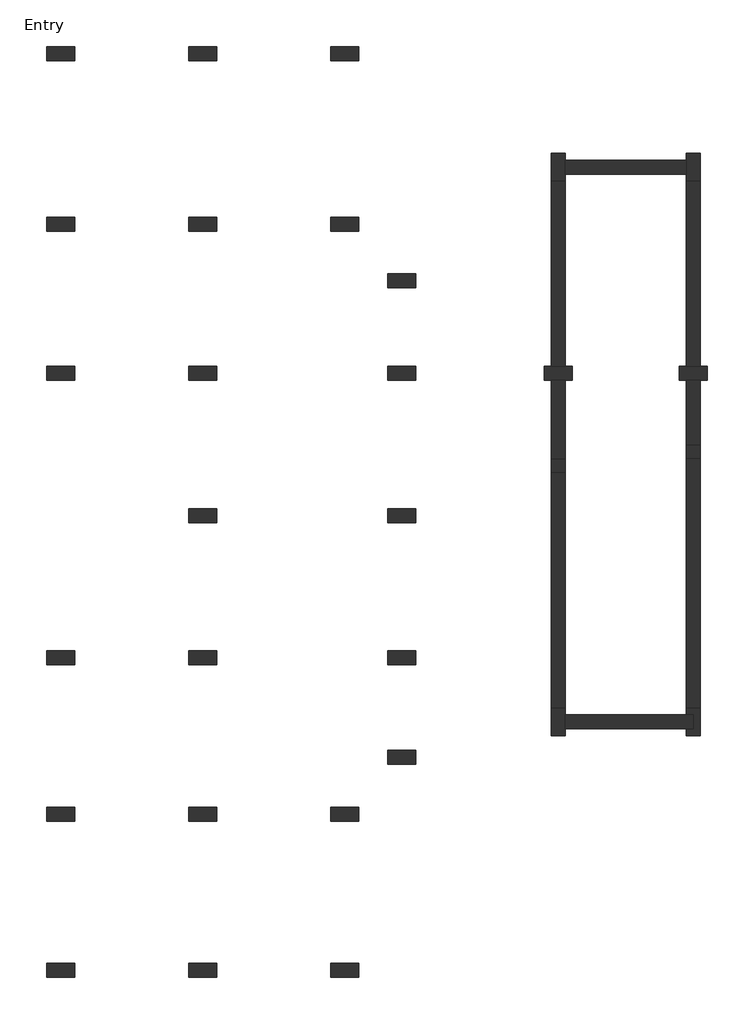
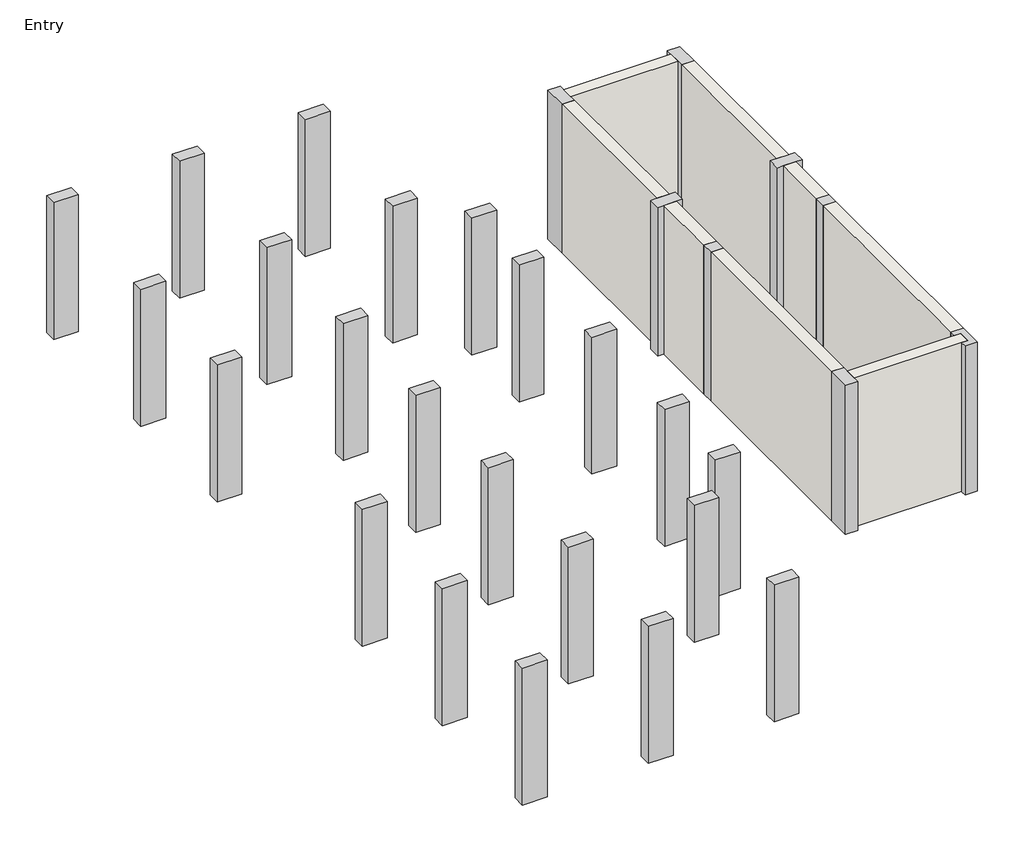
# One storey: 30 columns, 8 walls.
"""IFC4 building model written with IfcOpenShell, lengths in millimetres."""

import ifcopenshell
import ifcopenshell.guid

model = None  # the IFC model being written
_history = None  # IfcOwnerHistory: only IFC2X3 demands one
_inside = {}  # id of a spatial element -> (the spatial element, [elements in it])
_under = {}  # id of a project, library or spatial element -> (it, [spatial elements below it])
_declared = {}  # id of a project -> (the project, [libraries it declares])
_typed = {}  # id of a type object -> (the type object, [elements of that type])
_made_of = {}  # id of a material, layer set ... -> (it, [elements and type objects made of it])


def new_model(schema):
    """Start an empty IFC model of exactly this schema.

    Asked for "IFC4X3", IfcOpenShell would pick the latest addendum, in which some entities
    have other attributes; the version numbers below select the first issue.
    IFC2X3 requires an IfcOwnerHistory on every rooted entity: one is made here for all.
    """
    global model, _history
    if schema == "IFC4X3":
        model = ifcopenshell.file(schema_version=(4, 3, 0, 0))
    else:
        model = ifcopenshell.file(schema=schema)
    _inside.clear()
    _under.clear()
    _declared.clear()
    _typed.clear()
    _made_of.clear()
    _history = None
    if model.schema == "IFC2X3":
        org = make("IfcOrganization", Name="unknown")
        user = make(
            "IfcPersonAndOrganization",
            ThePerson=make("IfcPerson", FamilyName="unknown"),
            TheOrganization=org,
        )
        app = make(
            "IfcApplication",
            ApplicationDeveloper=org,
            Version="unknown",
            ApplicationFullName="unknown",
            ApplicationIdentifier="unknown",
        )
        _history = make(
            "IfcOwnerHistory",
            OwningUser=user,
            OwningApplication=app,
            ChangeAction="ADDED",
            CreationDate=0,
        )
    return model


def make(cls, **values):
    """One entity of the class cls with the attributes given. An attribute that is None is left unset."""
    return model.create_entity(
        cls, **{name: value for name, value in values.items() if value is not None}
    )


def rooted(cls, **values):
    """An entity with a GlobalId (a new one), such as an element, a storey or a relation."""
    return make(cls, GlobalId=ifcopenshell.guid.new(), OwnerHistory=_history, **values)


def si_unit(unit_type, name, prefix=None):
    """IfcSIUnit, for example si_unit("LENGTHUNIT", "METRE", prefix="MILLI")."""
    return make("IfcSIUnit", UnitType=unit_type, Prefix=prefix, Name=name)


def assignment(units):
    """IfcUnitAssignment: the units of a project."""
    return None if units is None else make("IfcUnitAssignment", Units=units)


def point(xyz):
    """IfcCartesianPoint."""
    return None if xyz is None else make("IfcCartesianPoint", Coordinates=xyz)


def direction(xyz):
    """IfcDirection."""
    return None if xyz is None else make("IfcDirection", DirectionRatios=xyz)


def frame(location, z_axis=None, x_axis=None):
    """IfcAxis2Placement3D, a coordinate frame: its origin and axes. An axis left out is left unset."""
    return make(
        "IfcAxis2Placement3D",
        Location=point(location),
        Axis=direction(z_axis),
        RefDirection=direction(x_axis),
    )


def origin():
    """The frame at (0, 0, 0) with its axes left unset."""
    return frame((0.0, 0.0, 0.0))


def origin_with_axes():
    """The frame at (0, 0, 0) with the z axis (0, 0, 1) and the x axis (1, 0, 0) written out."""
    return frame((0.0, 0.0, 0.0), z_axis=(0.0, 0.0, 1.0), x_axis=(1.0, 0.0, 0.0))


def place(relative_to, where):
    """IfcLocalPlacement: puts the frame where relative to a parent placement (None: the world)."""
    return make(
        "IfcLocalPlacement", PlacementRelTo=relative_to, RelativePlacement=where
    )


def context(
    kind, dimensions, precision=None, world=None, true_north=None, identifier=None
):
    """IfcGeometricRepresentationContext, for example the 3D "Model" context."""
    return make(
        "IfcGeometricRepresentationContext",
        ContextIdentifier=identifier,
        ContextType=kind,
        CoordinateSpaceDimension=dimensions,
        Precision=precision,
        WorldCoordinateSystem=world,
        TrueNorth=true_north,
    )


def project(units=None, contexts=None):
    """IfcProject with its units and contexts."""
    return rooted(
        "IfcProject",
        Name="project",
        RepresentationContexts=contexts,
        UnitsInContext=assignment(units),
    )


def spatial(cls, under=None, at=None, **own):
    """A site, building, storey or space (cls), placed at a placement, below another one or the project."""
    s = rooted(cls, ObjectPlacement=at, **own)
    if under is not None:
        _under.setdefault(under.id(), (under, []))[1].append(s)
    return s


def polyline(points):
    """IfcPolyline through the points."""
    return make("IfcPolyline", Points=[point(p) for p in points])


def outline(outer, holes=None, kind="AREA"):
    """IfcArbitraryClosedProfileDef: a profile drawn as a closed curve; with holes, ...WithVoids."""
    if holes is None:
        return make("IfcArbitraryClosedProfileDef", ProfileType=kind, OuterCurve=outer)
    return make(
        "IfcArbitraryProfileDefWithVoids",
        ProfileType=kind,
        OuterCurve=outer,
        InnerCurves=holes,
    )


def extrude(swept, where, along, depth):
    """IfcExtrudedAreaSolid: the profile swept, set in the frame where, extruded along a direction by depth."""
    return make(
        "IfcExtrudedAreaSolid",
        SweptArea=swept,
        Position=where,
        ExtrudedDirection=direction(along),
        Depth=depth,
    )


def faces_of(points, faces, orient=None, outer=None):
    """IfcFace entities. A face is a list of loops; a loop is a list of indices into points, from 0.

    orient and outer hold one flag for each loop. By default every Orientation is true, the
    first loop of a face is its IfcFaceOuterBound and the others are IfcFaceBound.
    """
    made = []
    for i, loops in enumerate(faces):
        bounds = []
        for j, loop in enumerate(loops):
            is_outer = j == 0 if outer is None else outer[i][j]
            bounds.append(
                make(
                    "IfcFaceOuterBound" if is_outer else "IfcFaceBound",
                    Bound=make("IfcPolyLoop", Polygon=[points[k] for k in loop]),
                    Orientation=True if orient is None else orient[i][j],
                )
            )
        made.append(make("IfcFace", Bounds=bounds))
    return made


def faceted_brep(points, faces, orient=None, outer=None, voids=None):
    """IfcFacetedBrep: a solid bounded by flat faces; with voids (closed shells), ...WithVoids."""
    shared = [point(p) for p in points]
    hull = make("IfcClosedShell", CfsFaces=faces_of(shared, faces, orient, outer))
    if voids is None:
        return make("IfcFacetedBrep", Outer=hull)
    return make(
        "IfcFacetedBrepWithVoids",
        Outer=hull,
        Voids=[
            make(cls, CfsFaces=faces_of(shared, fs, o, b)) for cls, fs, o, b in voids
        ],
    )


def shape(context_of_items, identifier, shape_type, items):
    """IfcShapeRepresentation: the items that make up one representation, for example the "Body"."""
    return make(
        "IfcShapeRepresentation",
        ContextOfItems=context_of_items,
        RepresentationIdentifier=identifier,
        RepresentationType=shape_type,
        Items=items,
    )


def source(mapping_origin, context_of_items, identifier, shape_type, items):
    """IfcRepresentationMap: a shape defined once, which mapped items show again and again."""
    return make(
        "IfcRepresentationMap",
        MappingOrigin=mapping_origin,
        MappedRepresentation=shape(context_of_items, identifier, shape_type, items),
    )


def transform(
    local_origin,
    x_axis=None,
    y_axis=None,
    z_axis=None,
    scale=None,
    scale2=None,
    scale3=None,
    uniform=True,
):
    """IfcCartesianTransformationOperator3D, or its non-uniform kind. x_axis, y_axis, z_axis: its Axis1, 2, 3."""
    if uniform:
        return make(
            "IfcCartesianTransformationOperator3D",
            Axis1=direction(x_axis),
            Axis2=direction(y_axis),
            LocalOrigin=point(local_origin),
            Scale=scale,
            Axis3=direction(z_axis),
        )
    return make(
        "IfcCartesianTransformationOperator3DnonUniform",
        Axis1=direction(x_axis),
        Axis2=direction(y_axis),
        LocalOrigin=point(local_origin),
        Scale=scale,
        Axis3=direction(z_axis),
        Scale2=scale2,
        Scale3=scale3,
    )


def mapped(mapping_source, mapping_target):
    """IfcMappedItem: shows the shape of a source again, moved by a transform."""
    return make(
        "IfcMappedItem", MappingSource=mapping_source, MappingTarget=mapping_target
    )


def made_of(thing, what):
    """Note that an element or type object is made of a material, layer set ...; save() writes the relation."""
    if what is not None:
        _made_of.setdefault(what.id(), (what, []))[1].append(thing)
    return thing


def element(
    cls,
    number,
    at=None,
    inside=None,
    cuts=None,
    type_object=None,
    material=None,
    context=None,
    identifier="Body",
    shape_type=None,
    held_by="IfcProductDefinitionShape",
    body=None,
    shapes=None,
    **own,
):
    """One element of the class cls, such as IfcWall. Its Tag is "e" and its number.

    at: its placement. inside: the storey or other place that contains it. cuts: it is an
    opening in that element (IfcRelVoidsElement). A single representation is given by context,
    identifier, shape_type and body (its items); several are given by shapes. held_by: the class
    of the entity that holds the representations. save() writes the other relations.
    """
    e = rooted(cls, Tag="e%d" % number, ObjectPlacement=at, **own)
    if body is not None:
        shapes = [shape(context, identifier, shape_type, body)]
    if shapes is not None:
        e.Representation = make(held_by, Representations=shapes)
    if inside is not None:
        _inside.setdefault(inside.id(), (inside, []))[1].append(e)
    if cuts is not None:
        rooted(
            "IfcRelVoidsElement", RelatingBuildingElement=cuts, RelatedOpeningElement=e
        )
    if type_object is not None:
        _typed.setdefault(type_object.id(), (type_object, []))[1].append(e)
    return made_of(e, material)


def aggregate(whole, parts):
    """IfcRelAggregates: a whole, such as a stair, and the parts it consists of."""
    return rooted("IfcRelAggregates", RelatingObject=whole, RelatedObjects=parts)


def save(model, path):
    """Write the relations noted so far, then the file.

    IfcRelAggregates (storeys below a building ...), IfcRelContainedInSpatialStructure (elements
    in a storey), IfcRelDefinesByType, IfcRelAssociatesMaterial and IfcRelDeclares: one each for
    every whole, place, type object, material and project.
    """
    for whole, parts in _under.values():
        aggregate(whole, parts)
    for where, things in _inside.values():
        rooted(
            "IfcRelContainedInSpatialStructure",
            RelatedElements=things,
            RelatingStructure=where,
        )
    for kind, things in _typed.values():
        rooted("IfcRelDefinesByType", RelatedObjects=things, RelatingType=kind)
    for what, things in _made_of.values():
        rooted("IfcRelAssociatesMaterial", RelatedObjects=things, RelatingMaterial=what)
    for by, libraries in _declared.values():
        rooted("IfcRelDeclares", RelatingContext=by, RelatedDefinitions=libraries)
    model.write(path)


def m_concrete_rectangular_column_300_x_600mm_f1ddfff3(model_context):
    return source(origin(), model_context, "Body", "SweptSolid", [
        extrude(outline(polyline([(150.0, 300.0), (150.0, -300.0), (-150.0, -300.0), (-150.0, 300.0), (150.0, 300.0)])), origin_with_axes(), (0.0, 0.0, 1.0), 3505.2),
    ])


model = new_model("IFC4")

# Units and contexts
model_context = context("Model", 3, world=origin())
ifc_project = project(units=[si_unit("LENGTHUNIT", "METRE", prefix="MILLI")], contexts=[model_context])

# Site, building, storey
site = spatial("IfcSite", under=ifc_project)
building = spatial("IfcBuilding", under=site)
storey = spatial("IfcBuildingStorey", under=building, Name="Entry", Elevation=0.0)

# Columns
placement = place(None, origin())
element("IfcColumn", 1, ObjectType="M_Concrete-Rectangular-Column : 300 x 600mm", at=placement, inside=storey, context=model_context, shape_type="Brep", body=[
    faceted_brep([(-2463.3472303, 8019.016665, 0.0), (-2313.3472303, 8019.016665, 0.0), (-2013.3472303, 8019.016665, 0.0), (-1863.3472303, 8019.016665, 0.0), (-1863.3472303, 7719.016665, 0.0), (-2013.3472303, 7719.016665, 0.0), (-2313.3472303, 7719.016665, 0.0), (-2463.3472303, 7719.016665, 0.0), (-2463.3472303, 8019.016665, 3810.0), (-2313.3472303, 8019.016665, 3810.0), (-2013.3472303, 8019.016665, 3810.0), (-1863.3472303, 8019.016665, 3810.0), (-1863.3472303, 7719.016665, 3810.0), (-2013.3472303, 7719.016665, 3810.0), (-2313.3472303, 7719.016665, 3810.0), (-2463.3472303, 7719.016665, 3810.0)], [[[0, 1, 2, 3, 4, 5, 6, 7]], [[8, 9, 10, 11, 3, 2, 1, 0]], [[11, 12, 4, 3]], [[12, 13, 14, 15, 7, 6, 5, 4]], [[15, 8, 0, 7]], [[8, 15, 14, 13, 12, 11, 10, 9]]]),
])
element("IfcColumn", 2, ObjectType="M_Concrete-Rectangular-Column : 300 x 600mm", at=placement, inside=storey, context=model_context, shape_type="Brep", body=[
    faceted_brep([(432.6527697, 8019.016665, 0.0), (582.6527697, 8019.016665, 0.0), (882.6527697, 8019.016665, 0.0), (1032.6527697, 8019.016665, 0.0), (1032.6527697, 7719.016665, 0.0), (882.6527697, 7719.016665, 0.0), (582.6527697, 7719.016665, 0.0), (432.6527697, 7719.016665, 0.0), (432.6527697, 8019.016665, 3810.0), (582.6527697, 8019.016665, 3810.0), (882.6527697, 8019.016665, 3810.0), (1032.6527697, 8019.016665, 3810.0), (1032.6527697, 7719.016665, 3810.0), (882.6527697, 7719.016665, 3810.0), (582.6527697, 7719.016665, 3810.0), (432.6527697, 7719.016665, 3810.0)], [[[0, 1, 2, 3, 4, 5, 6, 7]], [[8, 9, 10, 11, 3, 2, 1, 0]], [[11, 12, 4, 3]], [[12, 13, 14, 15, 7, 6, 5, 4]], [[15, 8, 0, 7]], [[8, 15, 14, 13, 12, 11, 10, 9]]]),
])
element("IfcColumn", 3, ObjectType="M_Concrete-Rectangular-Column : 300 x 600mm", at=placement, inside=storey, context=model_context, shape_type="Brep", body=[
    faceted_brep([(-2313.3472303, 11988.016665, 0.0), (-2313.3472303, 12588.016665, 0.0), (-2013.3472303, 12588.016665, 0.0), (-2013.3472303, 12438.016665, 0.0), (-2013.3472303, 12138.016665, 0.0), (-2013.3472303, 11988.016665, 0.0), (-2313.3472303, 11988.016665, 3810.0), (-2313.3472303, 12588.016665, 3810.0), (-2013.3472303, 12588.016665, 3810.0), (-2013.3472303, 12438.016665, 3810.0), (-2013.3472303, 12138.016665, 3810.0), (-2013.3472303, 11988.016665, 3810.0)], [[[0, 1, 2, 3, 4, 5]], [[6, 7, 1, 0]], [[7, 8, 2, 1]], [[8, 9, 10, 11, 5, 4, 3, 2]], [[11, 6, 0, 5]], [[6, 11, 10, 9, 8, 7]]]),
])
element("IfcColumn", 4, ObjectType="M_Concrete-Rectangular-Column : 300 x 600mm", at=placement, inside=storey, context=model_context, shape_type="Brep", body=[
    faceted_brep([(582.6527697, 11988.016665, 0.0), (582.6527697, 12138.016665, 0.0), (582.6527697, 12438.016665, 0.0), (582.6527697, 12588.016665, 0.0), (882.6527697, 12588.016665, 0.0), (882.6527697, 11988.016665, 0.0), (582.6527697, 11988.016665, 3810.0), (582.6527697, 12138.016665, 3810.0), (582.6527697, 12438.016665, 3810.0), (582.6527697, 12588.016665, 3810.0), (882.6527697, 12588.016665, 3810.0), (882.6527697, 11988.016665, 3810.0)], [[[0, 1, 2, 3, 4, 5]], [[6, 7, 8, 9, 3, 2, 1, 0]], [[9, 10, 4, 3]], [[10, 11, 5, 4]], [[11, 6, 0, 5]], [[6, 11, 10, 9, 8, 7]]]),
])
element("IfcColumn", 5, ObjectType="M_Concrete-Rectangular-Column : 300 x 600mm", at=placement, inside=storey, context=model_context, shape_type="Brep", body=[
    faceted_brep([(-2313.3472303, 101.016665, 0.0), (-2313.3472303, 701.016665, 0.0), (-2013.3472303, 701.016665, 0.0), (-2013.3472303, 551.016665, 0.0), (-2013.3472303, 251.016665, 0.0), (-2013.3472303, 101.016665, 0.0), (-2313.3472303, 101.016665, 3810.0), (-2313.3472303, 701.016665, 3810.0), (-2013.3472303, 701.016665, 3810.0), (-2013.3472303, 551.016665, 3810.0), (-2013.3472303, 251.016665, 3810.0), (-2013.3472303, 101.016665, 3810.0)], [[[0, 1, 2, 3, 4, 5]], [[6, 7, 1, 0]], [[7, 8, 2, 1]], [[8, 9, 10, 11, 5, 4, 3, 2]], [[11, 6, 0, 5]], [[6, 11, 10, 9, 8, 7]]]),
])
element("IfcColumn", 6, ObjectType="M_Concrete-Rectangular-Column : 300 x 600mm", at=placement, inside=storey, context=model_context, shape_type="SweptSolid", body=[
    extrude(outline(polyline([(582.6527697, 701.016665), (882.6527697, 701.016665), (882.6527697, 101.016665), (582.6527697, 101.016665), (582.6527697, 251.016665), (732.6527697, 251.016665), (732.6527697, 551.016665), (582.6527697, 551.016665), (582.6527697, 701.016665)])), origin_with_axes(), (0.0, 0.0, 1.0), 3810.0),
])
element("IfcColumn", 7, ObjectType="M_Concrete-Rectangular-Column : 300 x 600mm", at=placement, inside=storey, context=model_context, shape_type="SweptSolid", body=[
    extrude(outline(polyline([(-2013.3472303, 5740.016665), (-2313.3472303, 5740.016665), (-2313.3472303, 6040.016665), (-2013.3472303, 6040.016665), (-2013.3472303, 5740.016665)])), origin_with_axes(), (0.0, 0.0, 1.0), 3810.0),
])
element("IfcColumn", 8, ObjectType="M_Concrete-Rectangular-Column : 300 x 600mm", at=placement, inside=storey, context=model_context, shape_type="SweptSolid", body=[
    extrude(outline(polyline([(582.6527697, 6340.016665), (882.6527697, 6340.016665), (882.6527697, 6040.016665), (582.6527697, 6040.016665), (582.6527697, 6340.016665)])), origin_with_axes(), (0.0, 0.0, 1.0), 3810.0),
])
m_concrete_rectangular_column_300_x_600mm_shape = m_concrete_rectangular_column_300_x_600mm_f1ddfff3(model_context)
element("IfcColumn", 9, ObjectType="M_Concrete-Rectangular-Column : 300 x 600mm", at=placement, inside=storey, context=model_context, shape_type="MappedRepresentation", body=[
    mapped(m_concrete_rectangular_column_300_x_600mm_shape, transform((-12831.3472303, 14726.016665, 0.0), x_axis=(0.0, 1.0, 0.0), y_axis=(-1.0, 0.0, 0.0), z_axis=(0.0, 0.0, 1.0))),
])
element("IfcColumn", 10, ObjectType="M_Concrete-Rectangular-Column : 300 x 600mm", at=placement, inside=storey, context=model_context, shape_type="MappedRepresentation", body=[
    mapped(m_concrete_rectangular_column_300_x_600mm_shape, transform((-9783.3472303, 14726.016665, 0.0), x_axis=(0.0, 1.0, 0.0), y_axis=(-1.0, 0.0, 0.0), z_axis=(0.0, 0.0, 1.0))),
])
element("IfcColumn", 11, ObjectType="M_Concrete-Rectangular-Column : 300 x 600mm", at=placement, inside=storey, context=model_context, shape_type="MappedRepresentation", body=[
    mapped(m_concrete_rectangular_column_300_x_600mm_shape, transform((-6735.3472303, 14726.016665, 0.0), x_axis=(0.0, 1.0, 0.0), y_axis=(-1.0, 0.0, 0.0), z_axis=(0.0, 0.0, 1.0))),
])
element("IfcColumn", 12, ObjectType="M_Concrete-Rectangular-Column : 300 x 600mm", at=placement, inside=storey, context=model_context, shape_type="MappedRepresentation", body=[
    mapped(m_concrete_rectangular_column_300_x_600mm_shape, transform((-12831.3472303, 11069.016665, 0.0), x_axis=(0.0, 1.0, 0.0), y_axis=(-1.0, 0.0, 0.0), z_axis=(0.0, 0.0, 1.0))),
])
element("IfcColumn", 13, ObjectType="M_Concrete-Rectangular-Column : 300 x 600mm", at=placement, inside=storey, context=model_context, shape_type="MappedRepresentation", body=[
    mapped(m_concrete_rectangular_column_300_x_600mm_shape, transform((-9783.3472303, 11069.016665, 0.0), x_axis=(0.0, 1.0000000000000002, 0.0), y_axis=(-1.0000000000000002, 0.0, 0.0), z_axis=(0.0, 0.0, 1.0))),
])
element("IfcColumn", 14, ObjectType="M_Concrete-Rectangular-Column : 300 x 600mm", at=placement, inside=storey, context=model_context, shape_type="MappedRepresentation", body=[
    mapped(m_concrete_rectangular_column_300_x_600mm_shape, transform((-6735.3472303, 11069.016665, 0.0), x_axis=(0.0, 1.0000000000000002, 0.0), y_axis=(-1.0000000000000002, 0.0, 0.0), z_axis=(0.0, 0.0, 1.0))),
])
element("IfcColumn", 15, ObjectType="M_Concrete-Rectangular-Column : 300 x 600mm", at=placement, inside=storey, context=model_context, shape_type="MappedRepresentation", body=[
    mapped(m_concrete_rectangular_column_300_x_600mm_shape, transform((-5516.3472303, 9850.016665, 0.0), x_axis=(0.0, 1.0000000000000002, 0.0), y_axis=(-1.0000000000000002, 0.0, 0.0), z_axis=(0.0, 0.0, 1.0))),
])
element("IfcColumn", 16, ObjectType="M_Concrete-Rectangular-Column : 300 x 600mm", at=placement, inside=storey, context=model_context, shape_type="MappedRepresentation", body=[
    mapped(m_concrete_rectangular_column_300_x_600mm_shape, transform((-12831.3472303, 7869.016665, 0.0), x_axis=(0.0, 1.0000000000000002, 0.0), y_axis=(-1.0000000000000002, 0.0, 0.0), z_axis=(0.0, 0.0, 1.0))),
])
element("IfcColumn", 17, ObjectType="M_Concrete-Rectangular-Column : 300 x 600mm", at=placement, inside=storey, context=model_context, shape_type="MappedRepresentation", body=[
    mapped(m_concrete_rectangular_column_300_x_600mm_shape, transform((-9783.3472303, 7869.016665, 0.0), x_axis=(0.0, 1.0000000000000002, 0.0), y_axis=(-1.0000000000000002, 0.0, 0.0), z_axis=(0.0, 0.0, 1.0))),
])
element("IfcColumn", 18, ObjectType="M_Concrete-Rectangular-Column : 300 x 600mm", at=placement, inside=storey, context=model_context, shape_type="MappedRepresentation", body=[
    mapped(m_concrete_rectangular_column_300_x_600mm_shape, transform((-5516.3472303, 7869.016665, 0.0), x_axis=(0.0, 1.0000000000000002, 0.0), y_axis=(-1.0000000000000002, 0.0, 0.0), z_axis=(0.0, 0.0, 1.0))),
])
element("IfcColumn", 19, ObjectType="M_Concrete-Rectangular-Column : 300 x 600mm", at=placement, inside=storey, context=model_context, shape_type="MappedRepresentation", body=[
    mapped(m_concrete_rectangular_column_300_x_600mm_shape, transform((-9783.3472303, 4821.016665, 0.0), x_axis=(0.0, 1.0, 0.0), y_axis=(-1.0, 0.0, 0.0), z_axis=(0.0, 0.0, 1.0))),
])
element("IfcColumn", 20, ObjectType="M_Concrete-Rectangular-Column : 300 x 600mm", at=placement, inside=storey, context=model_context, shape_type="MappedRepresentation", body=[
    mapped(m_concrete_rectangular_column_300_x_600mm_shape, transform((-5516.3472303, 4821.016665, 0.0), x_axis=(0.0, 1.0, 0.0), y_axis=(-1.0, 0.0, 0.0), z_axis=(0.0, 0.0, 1.0))),
])
element("IfcColumn", 21, ObjectType="M_Concrete-Rectangular-Column : 300 x 600mm", at=placement, inside=storey, context=model_context, shape_type="MappedRepresentation", body=[
    mapped(m_concrete_rectangular_column_300_x_600mm_shape, transform((-12831.3472303, 1773.016665, 0.0), x_axis=(0.0, 1.0, 0.0), y_axis=(-1.0, 0.0, 0.0), z_axis=(0.0, 0.0, 1.0))),
])
element("IfcColumn", 22, ObjectType="M_Concrete-Rectangular-Column : 300 x 600mm", at=placement, inside=storey, context=model_context, shape_type="MappedRepresentation", body=[
    mapped(m_concrete_rectangular_column_300_x_600mm_shape, transform((-9783.3472303, 1773.016665, 0.0), x_axis=(0.0, 1.0, 0.0), y_axis=(-1.0, 0.0, 0.0), z_axis=(0.0, 0.0, 1.0))),
])
element("IfcColumn", 23, ObjectType="M_Concrete-Rectangular-Column : 300 x 600mm", at=placement, inside=storey, context=model_context, shape_type="MappedRepresentation", body=[
    mapped(m_concrete_rectangular_column_300_x_600mm_shape, transform((-5516.3472303, 1773.016665, 0.0), x_axis=(0.0, 1.0000000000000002, 0.0), y_axis=(-1.0000000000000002, 0.0, 0.0), z_axis=(0.0, 0.0, 1.0))),
])
element("IfcColumn", 24, ObjectType="M_Concrete-Rectangular-Column : 300 x 600mm", at=placement, inside=storey, context=model_context, shape_type="MappedRepresentation", body=[
    mapped(m_concrete_rectangular_column_300_x_600mm_shape, transform((-5516.3472303, -360.983335, 0.0), x_axis=(0.0, 1.0000000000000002, 0.0), y_axis=(-1.0000000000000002, 0.0, 0.0), z_axis=(0.0, 0.0, 1.0))),
])
element("IfcColumn", 25, ObjectType="M_Concrete-Rectangular-Column : 300 x 600mm", at=placement, inside=storey, context=model_context, shape_type="MappedRepresentation", body=[
    mapped(m_concrete_rectangular_column_300_x_600mm_shape, transform((-12831.3472303, -1579.983335, 0.0), x_axis=(0.0, 1.0, 0.0), y_axis=(-1.0, 0.0, 0.0), z_axis=(0.0, 0.0, 1.0))),
])
element("IfcColumn", 26, ObjectType="M_Concrete-Rectangular-Column : 300 x 600mm", at=placement, inside=storey, context=model_context, shape_type="MappedRepresentation", body=[
    mapped(m_concrete_rectangular_column_300_x_600mm_shape, transform((-9783.3472303, -1579.983335, 0.0), x_axis=(0.0, 1.0, 0.0), y_axis=(-1.0, 0.0, 0.0), z_axis=(0.0, 0.0, 1.0))),
])
element("IfcColumn", 27, ObjectType="M_Concrete-Rectangular-Column : 300 x 600mm", at=placement, inside=storey, context=model_context, shape_type="MappedRepresentation", body=[
    mapped(m_concrete_rectangular_column_300_x_600mm_shape, transform((-6735.3472303, -1579.983335, 0.0), x_axis=(0.0, 1.0, 0.0), y_axis=(-1.0, 0.0, 0.0), z_axis=(0.0, 0.0, 1.0))),
])
element("IfcColumn", 28, ObjectType="M_Concrete-Rectangular-Column : 300 x 600mm", at=placement, inside=storey, context=model_context, shape_type="MappedRepresentation", body=[
    mapped(m_concrete_rectangular_column_300_x_600mm_shape, transform((-12831.3472303, -4932.983335, 0.0), x_axis=(0.0, 1.0, 0.0), y_axis=(-1.0, 0.0, 0.0), z_axis=(0.0, 0.0, 1.0))),
])
element("IfcColumn", 29, ObjectType="M_Concrete-Rectangular-Column : 300 x 600mm", at=placement, inside=storey, context=model_context, shape_type="MappedRepresentation", body=[
    mapped(m_concrete_rectangular_column_300_x_600mm_shape, transform((-9783.3472303, -4932.983335, 0.0), x_axis=(0.0, 1.0, 0.0), y_axis=(-1.0, 0.0, 0.0), z_axis=(0.0, 0.0, 1.0))),
])
element("IfcColumn", 30, ObjectType="M_Concrete-Rectangular-Column : 300 x 600mm", at=placement, inside=storey, context=model_context, shape_type="MappedRepresentation", body=[
    mapped(m_concrete_rectangular_column_300_x_600mm_shape, transform((-6735.3472303, -4932.983335, 0.0), x_axis=(0.0, 1.0000000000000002, 0.0), y_axis=(-1.0000000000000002, 0.0, 0.0), z_axis=(0.0, 0.0, 1.0))),
])

# Walls
element("IfcWall", 31, ObjectType="Core-Shaft - 300mm Concrete", at=placement, inside=storey, context=model_context, shape_type="SweptSolid", body=[
    extrude(outline(polyline([(582.6527697, 12138.016665), (-2013.3472303, 12138.016665), (-2013.3472303, 12438.016665), (582.6527697, 12438.016665), (582.6527697, 12138.016665)])), origin_with_axes(), (0.0, 0.0, 1.0), 3810.0),
])
element("IfcWall", 32, ObjectType="Core-Shaft - 300mm Concrete", at=placement, inside=storey, context=model_context, shape_type="SweptSolid", body=[
    extrude(outline(polyline([(582.6527697, 8019.016665), (582.6527697, 11988.016665), (882.6527697, 11988.016665), (882.6527697, 8019.016665), (582.6527697, 8019.016665)])), origin_with_axes(), (0.0, 0.0, 1.0), 3810.0),
])
element("IfcWall", 33, ObjectType="Core-Shaft - 300mm Concrete", at=placement, inside=storey, context=model_context, shape_type="SweptSolid", body=[
    extrude(outline(polyline([(582.6527697, 6340.016665), (582.6527697, 7719.016665), (882.6527697, 7719.016665), (882.6527697, 6340.016665), (582.6527697, 6340.016665)])), origin_with_axes(), (0.0, 0.0, 1.0), 3810.0),
])
element("IfcWall", 34, ObjectType="Core-Shaft - 300mm Concrete", at=placement, inside=storey, context=model_context, shape_type="SweptSolid", body=[
    extrude(outline(polyline([(582.6527697, 701.016665), (582.6527697, 6040.016665), (882.6527697, 6040.016665), (882.6527697, 701.016665), (582.6527697, 701.016665)])), origin_with_axes(), (0.0, 0.0, 1.0), 3810.0),
])
element("IfcWall", 35, ObjectType="Core-Shaft - 300mm Concrete", at=placement, inside=storey, context=model_context, shape_type="Brep", body=[
    faceted_brep([(732.6527697, 551.016665, 0.0), (582.6527697, 551.016665, 0.0), (-2013.3472303, 551.016665, 0.0), (-2013.3472303, 551.016665, 3810.0), (582.6527697, 551.016665, 3810.0), (732.6527697, 551.016665, 3810.0), (732.6527697, 251.016665, 0.0), (732.6527697, 251.016665, 3810.0), (582.6527697, 251.016665, 3810.0), (-2013.3472303, 251.016665, 3810.0), (-2013.3472303, 251.016665, 0.0), (582.6527697, 251.016665, 0.0)], [[[0, 1, 2, 3, 4, 5]], [[6, 7, 8, 9, 10, 11]], [[2, 1, 0, 6, 11, 10]], [[3, 2, 10, 9]], [[5, 4, 3, 9, 8, 7]], [[0, 5, 7, 6]]]),
])
element("IfcWall", 36, ObjectType="Core-Shaft - 300mm Concrete", at=placement, inside=storey, context=model_context, shape_type="SweptSolid", body=[
    extrude(outline(polyline([(-2013.3472303, 5740.016665), (-2013.3472303, 701.016665), (-2313.3472303, 701.016665), (-2313.3472303, 5740.016665), (-2013.3472303, 5740.016665)])), origin_with_axes(), (0.0, 0.0, 1.0), 3810.0),
])
element("IfcWall", 37, ObjectType="Core-Shaft - 300mm Concrete", at=placement, inside=storey, context=model_context, shape_type="SweptSolid", body=[
    extrude(outline(polyline([(-2013.3472303, 7719.016665), (-2013.3472303, 6040.016665), (-2313.3472303, 6040.016665), (-2313.3472303, 7719.016665), (-2013.3472303, 7719.016665)])), origin_with_axes(), (0.0, 0.0, 1.0), 3810.0),
])
element("IfcWall", 38, ObjectType="Core-Shaft - 300mm Concrete", at=placement, inside=storey, context=model_context, shape_type="SweptSolid", body=[
    extrude(outline(polyline([(-2013.3472303, 11988.016665), (-2013.3472303, 8019.016665), (-2313.3472303, 8019.016665), (-2313.3472303, 11988.016665), (-2013.3472303, 11988.016665)])), origin_with_axes(), (0.0, 0.0, 1.0), 3810.0),
])

save(model, "model.ifc")
